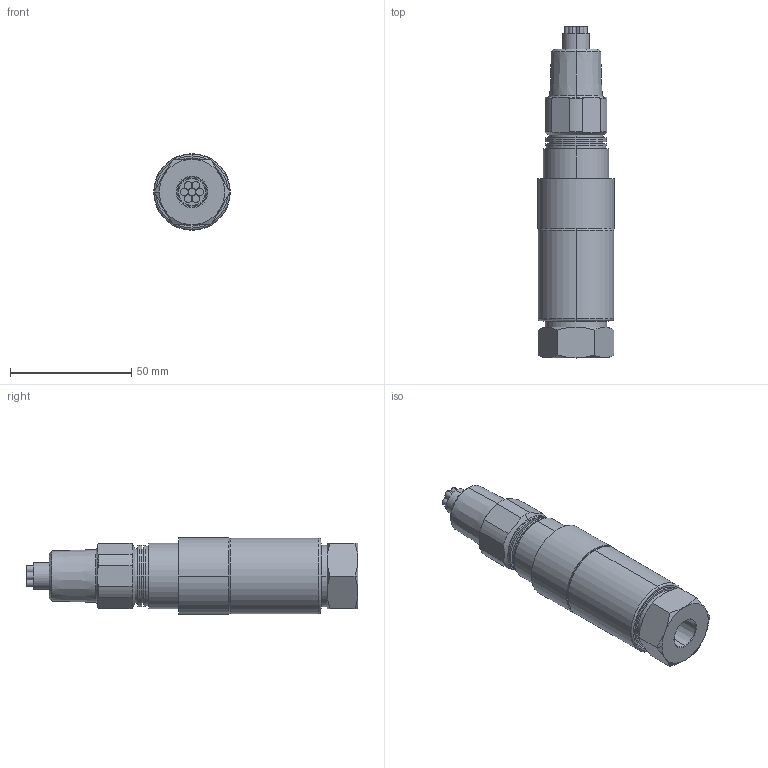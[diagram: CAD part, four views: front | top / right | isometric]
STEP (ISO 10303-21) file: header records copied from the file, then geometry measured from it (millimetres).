
FILE_DESCRIPTION (( 'STEP AP214' ), '1' );
FILE_NAME ('12SXXN8_A_D.STEP', '2025-04-02T11:34:45', ( '' ), ( '' ), 'SwSTEP 2.0', 'SolidWorks 2023', '' );
FILE_SCHEMA (( 'AUTOMOTIVE_DESIGN' ));
Length unit declared in the file: inch
Products named in the file (1): 12SXXN8_A_D
Bounding box: 31.56 x 136.83 x 31.56 mm (x, y, z)
Surface area: 21125 mm2 (no closed solid volume)
Topology: 0 solids, 16 shells, 132 faces, 308 edges, 200 vertices
Faces by surface type: cylinder 47, cone 39, plane 36, torus 6, bspline 4
Entity records: 4154 total; most frequent: CARTESIAN_POINT 1131, DIRECTION 676, ORIENTED_EDGE 565, EDGE_CURVE 308, AXIS2_PLACEMENT_3D 295, VERTEX_POINT 200, CIRCLE 166, EDGE_LOOP 148
